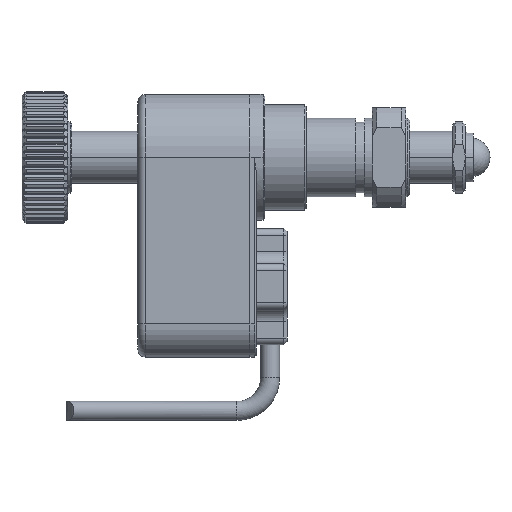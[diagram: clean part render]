
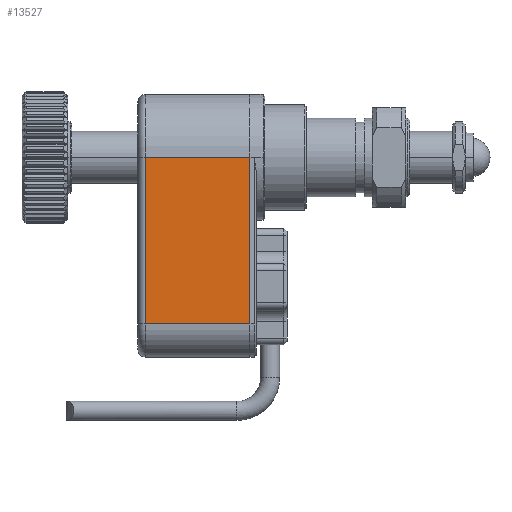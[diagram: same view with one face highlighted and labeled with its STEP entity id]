
A CAD part, left-side view. The second image highlights one B-rep face of the part: STEP entity #13527.
In plain terms, the highlighted planar face has unit normal (-1, 0, 0).
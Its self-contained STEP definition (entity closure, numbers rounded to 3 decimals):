
#95 = CARTESIAN_POINT ( 'NONE',  ( -7.6, -1.5, -8.05 ) ) ;
#765 = CARTESIAN_POINT ( 'NONE',  ( -7.6, 11.1, 12.05 ) ) ;
#1196 = CARTESIAN_POINT ( 'NONE',  ( -7.6, 11.1, -8.05 ) ) ;
#1595 = EDGE_CURVE ( 'NONE', #30130, #31811, #27744, .T. ) ;
#2996 = ORIENTED_EDGE ( 'NONE', *, *, #1595, .T. ) ;
#3171 = ORIENTED_EDGE ( 'NONE', *, *, #28639, .T. ) ;
#3881 = ORIENTED_EDGE ( 'NONE', *, *, #33393, .T. ) ;
#6287 = DIRECTION ( 'NONE',  ( 0., -1., 0. ) ) ;
#6791 = CARTESIAN_POINT ( 'NONE',  ( -7.6, 11.1, -8.05 ) ) ;
#7033 = EDGE_CURVE ( 'NONE', #14581, #27851, #19599, .T. ) ;
#10308 = DIRECTION ( 'NONE',  ( 0., -1., 0. ) ) ;
#12302 = AXIS2_PLACEMENT_3D ( 'NONE', #32433, #16111, #35189 ) ;
#12377 = VECTOR ( 'NONE', #10308, 1000. ) ;
#13527 = ADVANCED_FACE ( 'NONE', ( #32902 ), #32204, .F. ) ;
#14581 = VERTEX_POINT ( 'NONE', #765 ) ;
#16111 = DIRECTION ( 'NONE',  ( 1., 0., 0. ) ) ;
#16638 = CARTESIAN_POINT ( 'NONE',  ( -7.6, 12., -8.05 ) ) ;
#16999 = LINE ( 'NONE', #6791, #30655 ) ;
#18811 = EDGE_LOOP ( 'NONE', ( #27361, #3171, #2996, #3881 ) ) ;
#19599 = LINE ( 'NONE', #29489, #12377 ) ;
#21340 = VECTOR ( 'NONE', #6287, 1000. ) ;
#25021 = CARTESIAN_POINT ( 'NONE',  ( -7.6, -1.5, -8.05 ) ) ;
#25131 = DIRECTION ( 'NONE',  ( 0., 0., 1. ) ) ;
#25519 = VECTOR ( 'NONE', #25131, 1000. ) ;
#27361 = ORIENTED_EDGE ( 'NONE', *, *, #7033, .F. ) ;
#27744 = LINE ( 'NONE', #16638, #21340 ) ;
#27851 = VERTEX_POINT ( 'NONE', #32547 ) ;
#28639 = EDGE_CURVE ( 'NONE', #14581, #30130, #16999, .T. ) ;
#28666 = DIRECTION ( 'NONE',  ( 0., 0., -1. ) ) ;
#29489 = CARTESIAN_POINT ( 'NONE',  ( -7.6, 12., 12.05 ) ) ;
#30130 = VERTEX_POINT ( 'NONE', #1196 ) ;
#30655 = VECTOR ( 'NONE', #28666, 1000. ) ;
#31811 = VERTEX_POINT ( 'NONE', #95 ) ;
#32204 = PLANE ( 'NONE',  #12302 ) ;
#32433 = CARTESIAN_POINT ( 'NONE',  ( -7.6, 12., -8.05 ) ) ;
#32547 = CARTESIAN_POINT ( 'NONE',  ( -7.6, -1.5, 12.05 ) ) ;
#32777 = LINE ( 'NONE', #25021, #25519 ) ;
#32902 = FACE_OUTER_BOUND ( 'NONE', #18811, .T. ) ;
#33393 = EDGE_CURVE ( 'NONE', #31811, #27851, #32777, .T. ) ;
#35189 = DIRECTION ( 'NONE',  ( 0., 0., -1. ) ) ;
